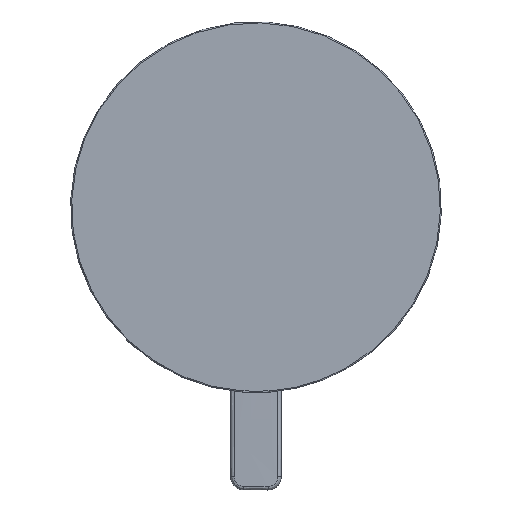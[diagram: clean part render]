
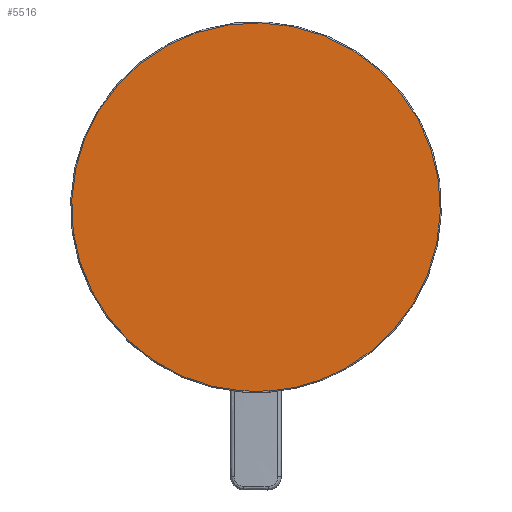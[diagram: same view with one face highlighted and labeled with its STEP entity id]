
A CAD part, left-side view. The second image highlights one B-rep face of the part: STEP entity #5516.
In plain terms, the highlighted planar face has unit normal (-1, 0, 0).
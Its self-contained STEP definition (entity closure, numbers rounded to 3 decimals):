
#4=CARTESIAN_POINT('',(59.,-6.,-84.133));
#6=DIRECTION('',(0.,0.,1.));
#7=VECTOR('',#6,0.154);
#8=CARTESIAN_POINT('',(59.,-6.,-84.287));
#9=LINE('',#8,#7);
#20=CARTESIAN_POINT('',(59.,-6.,-84.287));
#100=CARTESIAN_POINT('',(59.,6.,-84.287));
#114=CARTESIAN_POINT('',(59.,0.,0.));
#115=DIRECTION('',(-1.,0.,0.));
#116=DIRECTION('',(0.,0.071,-0.997));
#117=AXIS2_PLACEMENT_3D('',#114,#115,#116);
#119=DIRECTION('',(0.,0.,1.));
#120=VECTOR('',#119,0.154);
#121=CARTESIAN_POINT('',(59.,6.,-84.287));
#122=LINE('',#121,#120);
#123=CARTESIAN_POINT('',(59.,0.,0.));
#124=DIRECTION('',(-1.,0.,0.));
#125=DIRECTION('',(0.,0.479,0.878));
#126=AXIS2_PLACEMENT_3D('',#123,#124,#125);
#128=CARTESIAN_POINT('',(59.,0.,0.));
#129=DIRECTION('',(1.,0.,0.));
#130=DIRECTION('',(0.,0.479,0.878));
#131=AXIS2_PLACEMENT_3D('',#128,#129,#130);
#133=CARTESIAN_POINT('',(59.,0.,0.));
#134=DIRECTION('',(-1.,0.,0.));
#135=DIRECTION('',(0.,-0.071,-0.997));
#136=AXIS2_PLACEMENT_3D('',#133,#134,#135);
#138=CARTESIAN_POINT('',(59.,6.,-84.133));
#4907=VERTEX_POINT('',#20);
#4913=VERTEX_POINT('',#100);
#4915=CARTESIAN_POINT('',(59.,-40.512,-74.156));
#4916=VERTEX_POINT('',#4915);
#4917=CARTESIAN_POINT('',(59.,40.512,74.156));
#4918=VERTEX_POINT('',#4917);
#4942=VERTEX_POINT('',#4);
#4947=VERTEX_POINT('',#138);
#5500=CARTESIAN_POINT('',(59.,0.,83.));
#5501=DIRECTION('',(-1.,0.,0.));
#5502=DIRECTION('',(0.,1.,0.));
#5503=AXIS2_PLACEMENT_3D('',#5500,#5501,#5502);
#5504=PLANE('',#5503);
#5505=ORIENTED_EDGE('',*,*,#5409,.T.);
#5506=ORIENTED_EDGE('',*,*,#5436,.F.);
#5508=ORIENTED_EDGE('',*,*,#5507,.F.);
#5509=ORIENTED_EDGE('',*,*,#5486,.F.);
#5511=ORIENTED_EDGE('',*,*,#5510,.T.);
#5513=ORIENTED_EDGE('',*,*,#5512,.F.);
#5514=EDGE_LOOP('',(#5505,#5506,#5508,#5509,#5511,#5513));
#5515=FACE_OUTER_BOUND('',#5514,.F.);
#5516=ADVANCED_FACE('',(#5515),#5504,.T.);
#118=CIRCLE('',#117,84.346);
#127=CIRCLE('',#126,84.5);
#132=CIRCLE('',#131,84.5);
#137=CIRCLE('',#136,84.5);
#5409=EDGE_CURVE('',#4907,#4942,#9,.T.);
#5436=EDGE_CURVE('',#4947,#4942,#118,.T.);
#5486=EDGE_CURVE('',#4918,#4913,#127,.T.);
#5507=EDGE_CURVE('',#4913,#4947,#122,.T.);
#5510=EDGE_CURVE('',#4918,#4916,#132,.T.);
#5512=EDGE_CURVE('',#4907,#4916,#137,.T.);
